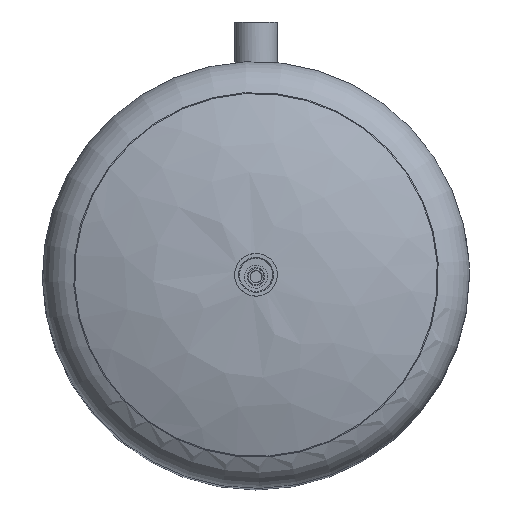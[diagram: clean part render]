
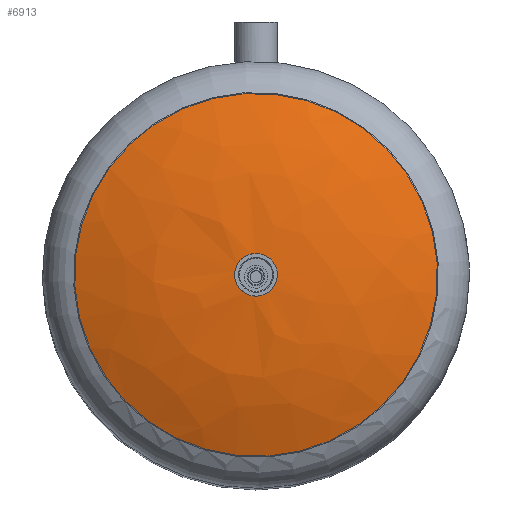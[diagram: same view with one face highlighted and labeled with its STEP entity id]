
A CAD part, top view. The second image highlights one B-rep face of the part: STEP entity #6913.
In plain terms, the highlighted free-form (B-spline) face has degree [2, 2] with [3, 9] control points.
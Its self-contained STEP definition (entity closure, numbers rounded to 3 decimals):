
#6856=CARTESIAN_POINT('',(-14.039,363.713,1054.286));
#6857=CARTESIAN_POINT('',(-7.271,261.433,1094.91));
#6858=CARTESIAN_POINT('',(0.,151.566,1089.107));
#6859=CARTESIAN_POINT('',(198.107,377.752,1054.286));
#6860=CARTESIAN_POINT('',(102.596,268.704,1094.91));
#6861=CARTESIAN_POINT('',(0.,151.566,1089.107));
#6862=CARTESIAN_POINT('',(212.146,165.606,1054.286));
#6863=CARTESIAN_POINT('',(109.867,158.837,1094.91));
#6864=CARTESIAN_POINT('',(0.,151.566,1089.107));
#6865=CARTESIAN_POINT('',(226.186,-46.541,1054.286));
#6866=CARTESIAN_POINT('',(117.137,48.97,1094.91));
#6867=CARTESIAN_POINT('',(0.,151.566,1089.107));
#6868=CARTESIAN_POINT('',(14.039,-60.58,1054.286));
#6869=CARTESIAN_POINT('',(7.271,41.7,1094.91));
#6870=CARTESIAN_POINT('',(0.,151.566,1089.107));
#6871=CARTESIAN_POINT('',(-198.107,-74.619,1054.286));
#6872=CARTESIAN_POINT('',(-102.596,34.429,1094.91));
#6873=CARTESIAN_POINT('',(0.,151.566,1089.107));
#6874=CARTESIAN_POINT('',(-212.146,137.527,1054.286));
#6875=CARTESIAN_POINT('',(-109.867,144.296,1094.91));
#6876=CARTESIAN_POINT('',(0.,151.566,1089.107));
#6877=CARTESIAN_POINT('',(-226.186,349.674,1054.286));
#6878=CARTESIAN_POINT('',(-117.137,254.163,1094.91));
#6879=CARTESIAN_POINT('',(0.,151.566,1089.107));
#6880=CARTESIAN_POINT('',(-14.039,363.713,1054.286));
#6881=CARTESIAN_POINT('',(-7.271,261.433,1094.91));
#6882=CARTESIAN_POINT('',(0.,151.566,1089.107));
#6890=(BOUNDED_SURFACE()B_SPLINE_SURFACE(2,2,((#6856,#6859,#6862,#6865,#6868,#6871,#6874,#6877,#6880),(#6857,#6860,#6863,#6866,#6869,#6872,#6875,#6878,#6881),(#6858,#6861,#6864,#6867,#6870,#6873,#6876,#6879,#6882)),.UNSPECIFIED.,.F.,.T.,.U.)B_SPLINE_SURFACE_WITH_KNOTS((3,3),(3,2,2,2,3),(1.193,1.623),(0.0,1.571,3.142,4.712,6.283),.UNSPECIFIED.)GEOMETRIC_REPRESENTATION_ITEM()RATIONAL_B_SPLINE_SURFACE(((1.0,0.707,1.0,0.707,1.0,0.707,1.0,0.707,1.0),(0.977,0.691,0.977,0.691,0.977,0.691,0.977,0.691,0.977),(1.0,0.707,1.0,0.707,1.0,0.707,1.0,0.707,1.0)))REPRESENTATION_ITEM('')SURFACE());
#6891=CARTESIAN_POINT('',(15.809,132.199,1089.804));
#6892=VERTEX_POINT('',#6891);
#6893=CARTESIAN_POINT('',(0.,151.566,1089.804));
#6894=DIRECTION('',(0.,0.,-1.0));
#6895=DIRECTION('',(-0.632,0.775,0.));
#6896=AXIS2_PLACEMENT_3D('',#6893,#6894,#6895);
#6897=CIRCLE('',#6896,25.);
#6898=EDGE_CURVE('',#6892,#6892,#6897,.T.);
#6899=ORIENTED_EDGE('',*,*,#6898,.T.);
#6900=EDGE_LOOP('',(#6899));
#6901=FACE_OUTER_BOUND('',#6900,.T.);
#6902=CARTESIAN_POINT('',(212.146,165.606,1054.286));
#6903=VERTEX_POINT('',#6902);
#6904=CARTESIAN_POINT('',(0.,151.566,1054.286));
#6905=DIRECTION('',(0.,0.,1.0));
#6906=DIRECTION('',(0.998,0.066,0.));
#6907=AXIS2_PLACEMENT_3D('',#6904,#6905,#6906);
#6908=CIRCLE('',#6907,212.61);
#6909=EDGE_CURVE('',#6903,#6903,#6908,.T.);
#6910=ORIENTED_EDGE('',*,*,#6909,.T.);
#6911=EDGE_LOOP('',(#6910));
#6912=FACE_BOUND('',#6911,.T.);
#6913=ADVANCED_FACE('',(#6901,#6912),#6890,.T.);
